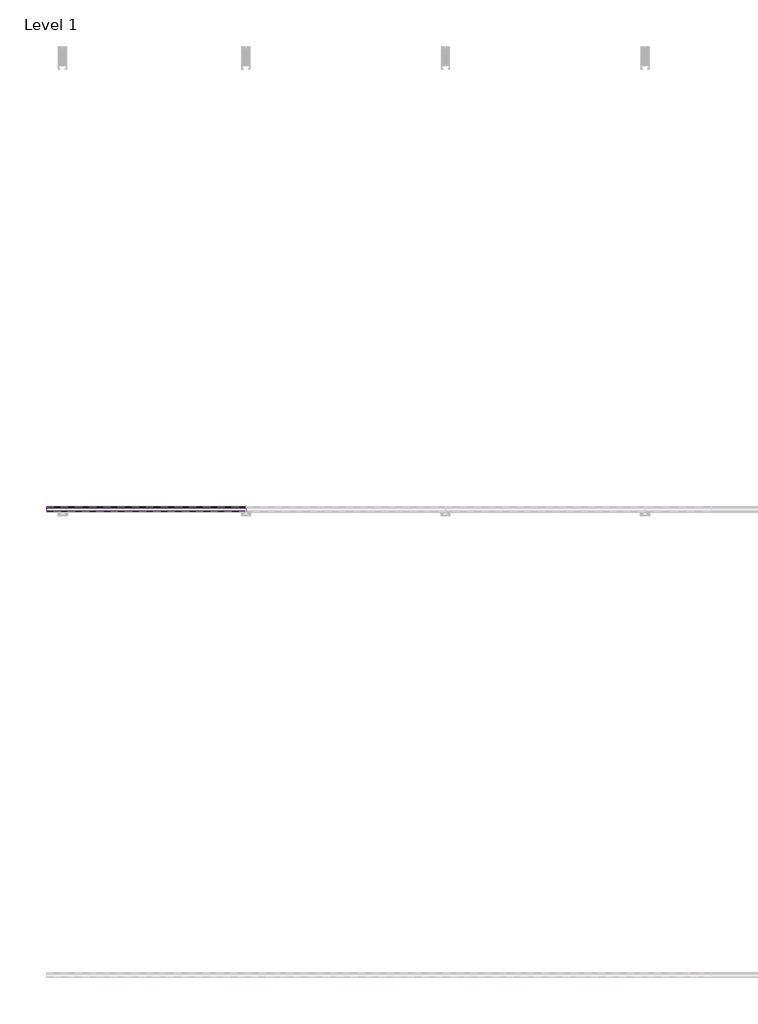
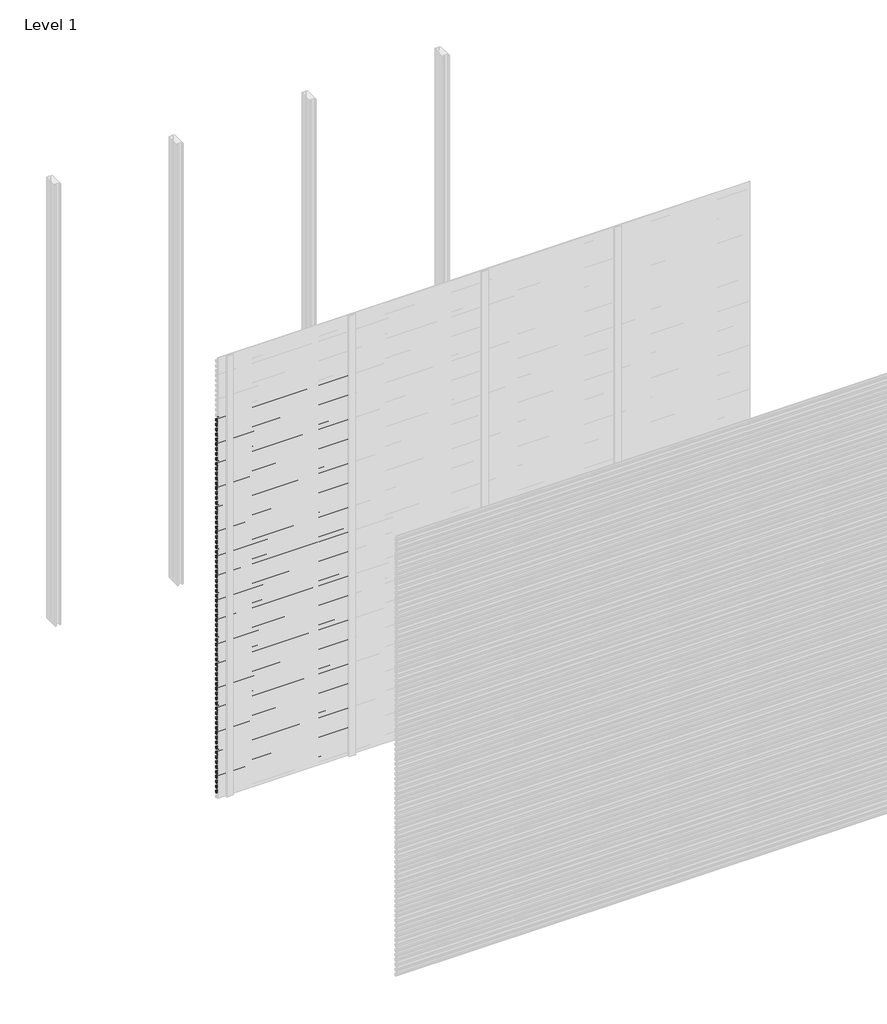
# One storey, part 52 of 96: 77 proxies.
"""IFC4 building model written with IfcOpenShell, lengths in millimetres."""

from ifc_helpers import new_model, si_unit, frame, origin, place, context, project, spatial, polyline, outline, extrude, element, save

model = new_model("IFC4")

# Units and contexts
model_context = context("Model", 3, world=origin())
ifc_project = project(units=[si_unit("LENGTHUNIT", "METRE", prefix="MILLI")], contexts=[model_context])

# Site, building, storey
site = spatial("IfcSite", under=ifc_project)
building = spatial("IfcBuilding", under=site)
storey = spatial("IfcBuildingStorey", under=building, Name="Level 1", Elevation=0.0)

# Proxies
placement = place(None, origin())
element("IfcBuildingElementProxy", 1, Name="Wall Sweeps", at=placement, inside=storey, context=model_context, shape_type="SweptSolid", body=[
    extrude(outline(polyline([(-23977.6, 2572.1655033), (-23977.6, 2557.8779188), (-23982.4114965, 2555.1), (-23982.4114965, 2556.3701706), (-23978.85, 2558.4264016), (-23978.85, 2571.4437382), (-23998.0, 2582.5000799), (-23998.0, 2597.4), (-23996.75, 2597.4), (-23996.75, 2583.2217609), (-23977.6, 2572.1655033)])), frame((0.0, 0.0, 0.0), z_axis=(1.0, 0.0, 0.0), x_axis=(0.0, 1.0, 0.0)), (0.0, 0.0, 1.0), 857.1428571),
])
element("IfcBuildingElementProxy", 2, Name="Wall Sweeps", at=placement, inside=storey, context=model_context, shape_type="SweptSolid", body=[
    extrude(outline(polyline([(-23977.6, 2538.8655033), (-23977.6, 2524.5779188), (-23982.4114965, 2521.8), (-23982.4114965, 2523.0701706), (-23978.85, 2525.1264016), (-23978.85, 2538.1437382), (-23998.0, 2549.2000799), (-23998.0, 2564.1), (-23996.75, 2564.1), (-23996.75, 2549.9217609), (-23977.6, 2538.8655033)])), frame((0.0, 0.0, 0.0), z_axis=(1.0, 0.0, 0.0), x_axis=(0.0, 1.0, 0.0)), (0.0, 0.0, 1.0), 857.1428571),
])
element("IfcBuildingElementProxy", 3, Name="Wall Sweeps", at=placement, inside=storey, context=model_context, shape_type="SweptSolid", body=[
    extrude(outline(polyline([(-23977.6, 2505.5655033), (-23977.6, 2491.2779188), (-23982.4114965, 2488.5), (-23982.4114965, 2489.7701706), (-23978.85, 2491.8264016), (-23978.85, 2504.8437382), (-23998.0, 2515.9000799), (-23998.0, 2530.8), (-23996.75, 2530.8), (-23996.75, 2516.6217609), (-23977.6, 2505.5655033)])), frame((0.0, 0.0, 0.0), z_axis=(1.0, 0.0, 0.0), x_axis=(0.0, 1.0, 0.0)), (0.0, 0.0, 1.0), 857.1428571),
])
element("IfcBuildingElementProxy", 4, Name="Wall Sweeps", at=placement, inside=storey, context=model_context, shape_type="SweptSolid", body=[
    extrude(outline(polyline([(-23977.6, 2472.2655033), (-23977.6, 2457.9779188), (-23982.4114965, 2455.2), (-23982.4114965, 2456.4701706), (-23978.85, 2458.5264016), (-23978.85, 2471.5437382), (-23998.0, 2482.6000799), (-23998.0, 2497.5), (-23996.75, 2497.5), (-23996.75, 2483.3217609), (-23977.6, 2472.2655033)])), frame((0.0, 0.0, 0.0), z_axis=(1.0, 0.0, 0.0), x_axis=(0.0, 1.0, 0.0)), (0.0, 0.0, 1.0), 857.1428571),
])
element("IfcBuildingElementProxy", 5, Name="Wall Sweeps", at=placement, inside=storey, context=model_context, shape_type="SweptSolid", body=[
    extrude(outline(polyline([(-23977.6, 2438.9655033), (-23977.6, 2424.6779188), (-23982.4114965, 2421.9), (-23982.4114965, 2423.1701706), (-23978.85, 2425.2264016), (-23978.85, 2438.2437382), (-23998.0, 2449.3000799), (-23998.0, 2464.2), (-23996.75, 2464.2), (-23996.75, 2450.0217609), (-23977.6, 2438.9655033)])), frame((0.0, 0.0, 0.0), z_axis=(1.0, 0.0, 0.0), x_axis=(0.0, 1.0, 0.0)), (0.0, 0.0, 1.0), 857.1428571),
])
element("IfcBuildingElementProxy", 6, Name="Wall Sweeps", at=placement, inside=storey, context=model_context, shape_type="SweptSolid", body=[
    extrude(outline(polyline([(-23977.6, 2405.6655033), (-23977.6, 2391.3779188), (-23982.4114965, 2388.6), (-23982.4114965, 2389.8701706), (-23978.85, 2391.9264016), (-23978.85, 2404.9437382), (-23998.0, 2416.0000799), (-23998.0, 2430.9), (-23996.75, 2430.9), (-23996.75, 2416.7217609), (-23977.6, 2405.6655033)])), frame((0.0, 0.0, 0.0), z_axis=(1.0, 0.0, 0.0), x_axis=(0.0, 1.0, 0.0)), (0.0, 0.0, 1.0), 857.1428571),
])
element("IfcBuildingElementProxy", 7, Name="Wall Sweeps", at=placement, inside=storey, context=model_context, shape_type="SweptSolid", body=[
    extrude(outline(polyline([(-23977.6, 2372.3655033), (-23977.6, 2358.0779188), (-23982.4114965, 2355.3), (-23982.4114965, 2356.5701706), (-23978.85, 2358.6264016), (-23978.85, 2371.6437382), (-23998.0, 2382.7000799), (-23998.0, 2397.6), (-23996.75, 2397.6), (-23996.75, 2383.4217609), (-23977.6, 2372.3655033)])), frame((0.0, 0.0, 0.0), z_axis=(1.0, 0.0, 0.0), x_axis=(0.0, 1.0, 0.0)), (0.0, 0.0, 1.0), 857.1428571),
])
element("IfcBuildingElementProxy", 8, Name="Wall Sweeps", at=placement, inside=storey, context=model_context, shape_type="SweptSolid", body=[
    extrude(outline(polyline([(-23977.6, 2339.0655033), (-23977.6, 2324.7779188), (-23982.4114965, 2322.0), (-23982.4114965, 2323.2701706), (-23978.85, 2325.3264016), (-23978.85, 2338.3437382), (-23998.0, 2349.4000799), (-23998.0, 2364.3), (-23996.75, 2364.3), (-23996.75, 2350.1217609), (-23977.6, 2339.0655033)])), frame((0.0, 0.0, 0.0), z_axis=(1.0, 0.0, 0.0), x_axis=(0.0, 1.0, 0.0)), (0.0, 0.0, 1.0), 857.1428571),
])
element("IfcBuildingElementProxy", 9, Name="Wall Sweeps", at=placement, inside=storey, context=model_context, shape_type="SweptSolid", body=[
    extrude(outline(polyline([(-23977.6, 2305.7655033), (-23977.6, 2291.4779188), (-23982.4114965, 2288.7), (-23982.4114965, 2289.9701706), (-23978.85, 2292.0264016), (-23978.85, 2305.0437382), (-23998.0, 2316.1000799), (-23998.0, 2331.0), (-23996.75, 2331.0), (-23996.75, 2316.8217609), (-23977.6, 2305.7655033)])), frame((0.0, 0.0, 0.0), z_axis=(1.0, 0.0, 0.0), x_axis=(0.0, 1.0, 0.0)), (0.0, 0.0, 1.0), 857.1428571),
])
element("IfcBuildingElementProxy", 10, Name="Wall Sweeps", at=placement, inside=storey, context=model_context, shape_type="SweptSolid", body=[
    extrude(outline(polyline([(-23977.6, 2272.4655033), (-23977.6, 2258.1779188), (-23982.4114965, 2255.4), (-23982.4114965, 2256.6701706), (-23978.85, 2258.7264016), (-23978.85, 2271.7437382), (-23998.0, 2282.8000799), (-23998.0, 2297.7), (-23996.75, 2297.7), (-23996.75, 2283.5217609), (-23977.6, 2272.4655033)])), frame((0.0, 0.0, 0.0), z_axis=(1.0, 0.0, 0.0), x_axis=(0.0, 1.0, 0.0)), (0.0, 0.0, 1.0), 857.1428571),
])
element("IfcBuildingElementProxy", 11, Name="Wall Sweeps", at=placement, inside=storey, context=model_context, shape_type="SweptSolid", body=[
    extrude(outline(polyline([(-23977.6, 2239.1655033), (-23977.6, 2224.8779188), (-23982.4114965, 2222.1), (-23982.4114965, 2223.3701706), (-23978.85, 2225.4264016), (-23978.85, 2238.4437382), (-23998.0, 2249.5000799), (-23998.0, 2264.4), (-23996.75, 2264.4), (-23996.75, 2250.2217609), (-23977.6, 2239.1655033)])), frame((0.0, 0.0, 0.0), z_axis=(1.0, 0.0, 0.0), x_axis=(0.0, 1.0, 0.0)), (0.0, 0.0, 1.0), 857.1428571),
])
element("IfcBuildingElementProxy", 12, Name="Wall Sweeps", at=placement, inside=storey, context=model_context, shape_type="SweptSolid", body=[
    extrude(outline(polyline([(-23977.6, 2205.8655033), (-23977.6, 2191.5779188), (-23982.4114965, 2188.8), (-23982.4114965, 2190.0701706), (-23978.85, 2192.1264016), (-23978.85, 2205.1437382), (-23998.0, 2216.2000799), (-23998.0, 2231.1), (-23996.75, 2231.1), (-23996.75, 2216.9217609), (-23977.6, 2205.8655033)])), frame((0.0, 0.0, 0.0), z_axis=(1.0, 0.0, 0.0), x_axis=(0.0, 1.0, 0.0)), (0.0, 0.0, 1.0), 857.1428571),
])
element("IfcBuildingElementProxy", 13, Name="Wall Sweeps", at=placement, inside=storey, context=model_context, shape_type="SweptSolid", body=[
    extrude(outline(polyline([(-23977.6, 2172.5655033), (-23977.6, 2158.2779188), (-23982.4114965, 2155.5), (-23982.4114965, 2156.7701706), (-23978.85, 2158.8264016), (-23978.85, 2171.8437382), (-23998.0, 2182.9000799), (-23998.0, 2197.8), (-23996.75, 2197.8), (-23996.75, 2183.6217609), (-23977.6, 2172.5655033)])), frame((0.0, 0.0, 0.0), z_axis=(1.0, 0.0, 0.0), x_axis=(0.0, 1.0, 0.0)), (0.0, 0.0, 1.0), 857.1428571),
])
element("IfcBuildingElementProxy", 14, Name="Wall Sweeps", at=placement, inside=storey, context=model_context, shape_type="SweptSolid", body=[
    extrude(outline(polyline([(-23977.6, 2139.2655033), (-23977.6, 2124.9779188), (-23982.4114965, 2122.2), (-23982.4114965, 2123.4701706), (-23978.85, 2125.5264016), (-23978.85, 2138.5437382), (-23998.0, 2149.6000799), (-23998.0, 2164.5), (-23996.75, 2164.5), (-23996.75, 2150.3217609), (-23977.6, 2139.2655033)])), frame((0.0, 0.0, 0.0), z_axis=(1.0, 0.0, 0.0), x_axis=(0.0, 1.0, 0.0)), (0.0, 0.0, 1.0), 857.1428571),
])
element("IfcBuildingElementProxy", 15, Name="Wall Sweeps", at=placement, inside=storey, context=model_context, shape_type="SweptSolid", body=[
    extrude(outline(polyline([(-23977.6, 2105.9655033), (-23977.6, 2091.6779188), (-23982.4114965, 2088.9), (-23982.4114965, 2090.1701706), (-23978.85, 2092.2264016), (-23978.85, 2105.2437382), (-23998.0, 2116.3000799), (-23998.0, 2131.2), (-23996.75, 2131.2), (-23996.75, 2117.0217609), (-23977.6, 2105.9655033)])), frame((0.0, 0.0, 0.0), z_axis=(1.0, 0.0, 0.0), x_axis=(0.0, 1.0, 0.0)), (0.0, 0.0, 1.0), 857.1428571),
])
element("IfcBuildingElementProxy", 16, Name="Wall Sweeps", at=placement, inside=storey, context=model_context, shape_type="SweptSolid", body=[
    extrude(outline(polyline([(-23977.6, 2072.6655033), (-23977.6, 2058.3779188), (-23982.4114965, 2055.6), (-23982.4114965, 2056.8701706), (-23978.85, 2058.9264016), (-23978.85, 2071.9437382), (-23998.0, 2083.0000799), (-23998.0, 2097.9), (-23996.75, 2097.9), (-23996.75, 2083.7217609), (-23977.6, 2072.6655033)])), frame((0.0, 0.0, 0.0), z_axis=(1.0, 0.0, 0.0), x_axis=(0.0, 1.0, 0.0)), (0.0, 0.0, 1.0), 857.1428571),
])
element("IfcBuildingElementProxy", 17, Name="Wall Sweeps", at=placement, inside=storey, context=model_context, shape_type="SweptSolid", body=[
    extrude(outline(polyline([(-23977.6, 2039.3655033), (-23977.6, 2025.0779188), (-23982.4114965, 2022.3), (-23982.4114965, 2023.5701706), (-23978.85, 2025.6264016), (-23978.85, 2038.6437382), (-23998.0, 2049.7000799), (-23998.0, 2064.6), (-23996.75, 2064.6), (-23996.75, 2050.4217609), (-23977.6, 2039.3655033)])), frame((0.0, 0.0, 0.0), z_axis=(1.0, 0.0, 0.0), x_axis=(0.0, 1.0, 0.0)), (0.0, 0.0, 1.0), 857.1428571),
])
element("IfcBuildingElementProxy", 18, Name="Wall Sweeps", at=placement, inside=storey, context=model_context, shape_type="SweptSolid", body=[
    extrude(outline(polyline([(-23977.6, 2006.0655033), (-23977.6, 1991.7779188), (-23982.4114965, 1989.0), (-23982.4114965, 1990.2701706), (-23978.85, 1992.3264016), (-23978.85, 2005.3437382), (-23998.0, 2016.4000799), (-23998.0, 2031.3), (-23996.75, 2031.3), (-23996.75, 2017.1217609), (-23977.6, 2006.0655033)])), frame((0.0, 0.0, 0.0), z_axis=(1.0, 0.0, 0.0), x_axis=(0.0, 1.0, 0.0)), (0.0, 0.0, 1.0), 857.1428571),
])
element("IfcBuildingElementProxy", 19, Name="Wall Sweeps", at=placement, inside=storey, context=model_context, shape_type="SweptSolid", body=[
    extrude(outline(polyline([(-23977.6, 1972.7655033), (-23977.6, 1958.4779188), (-23982.4114965, 1955.7), (-23982.4114965, 1956.9701706), (-23978.85, 1959.0264016), (-23978.85, 1972.0437382), (-23998.0, 1983.1000799), (-23998.0, 1998.0), (-23996.75, 1998.0), (-23996.75, 1983.8217609), (-23977.6, 1972.7655033)])), frame((0.0, 0.0, 0.0), z_axis=(1.0, 0.0, 0.0), x_axis=(0.0, 1.0, 0.0)), (0.0, 0.0, 1.0), 857.1428571),
])
element("IfcBuildingElementProxy", 20, Name="Wall Sweeps", at=placement, inside=storey, context=model_context, shape_type="SweptSolid", body=[
    extrude(outline(polyline([(-23977.6, 1939.4655033), (-23977.6, 1925.1779188), (-23982.4114965, 1922.4), (-23982.4114965, 1923.6701706), (-23978.85, 1925.7264016), (-23978.85, 1938.7437382), (-23998.0, 1949.8000799), (-23998.0, 1964.7), (-23996.75, 1964.7), (-23996.75, 1950.5217609), (-23977.6, 1939.4655033)])), frame((0.0, 0.0, 0.0), z_axis=(1.0, 0.0, 0.0), x_axis=(0.0, 1.0, 0.0)), (0.0, 0.0, 1.0), 857.1428571),
])
element("IfcBuildingElementProxy", 21, Name="Wall Sweeps", at=placement, inside=storey, context=model_context, shape_type="SweptSolid", body=[
    extrude(outline(polyline([(-23977.6, 1906.1655033), (-23977.6, 1891.8779188), (-23982.4114965, 1889.1), (-23982.4114965, 1890.3701706), (-23978.85, 1892.4264016), (-23978.85, 1905.4437382), (-23998.0, 1916.5000799), (-23998.0, 1931.4), (-23996.75, 1931.4), (-23996.75, 1917.2217609), (-23977.6, 1906.1655033)])), frame((0.0, 0.0, 0.0), z_axis=(1.0, 0.0, 0.0), x_axis=(0.0, 1.0, 0.0)), (0.0, 0.0, 1.0), 857.1428571),
])
element("IfcBuildingElementProxy", 22, Name="Wall Sweeps", at=placement, inside=storey, context=model_context, shape_type="SweptSolid", body=[
    extrude(outline(polyline([(-23977.6, 1872.8655033), (-23977.6, 1858.5779188), (-23982.4114965, 1855.8), (-23982.4114965, 1857.0701706), (-23978.85, 1859.1264016), (-23978.85, 1872.1437382), (-23998.0, 1883.2000799), (-23998.0, 1898.1), (-23996.75, 1898.1), (-23996.75, 1883.9217609), (-23977.6, 1872.8655033)])), frame((0.0, 0.0, 0.0), z_axis=(1.0, 0.0, 0.0), x_axis=(0.0, 1.0, 0.0)), (0.0, 0.0, 1.0), 857.1428571),
])
element("IfcBuildingElementProxy", 23, Name="Wall Sweeps", at=placement, inside=storey, context=model_context, shape_type="SweptSolid", body=[
    extrude(outline(polyline([(-23977.6, 1839.5655033), (-23977.6, 1825.2779188), (-23982.4114965, 1822.5), (-23982.4114965, 1823.7701706), (-23978.85, 1825.8264016), (-23978.85, 1838.8437382), (-23998.0, 1849.9000799), (-23998.0, 1864.8), (-23996.75, 1864.8), (-23996.75, 1850.6217609), (-23977.6, 1839.5655033)])), frame((0.0, 0.0, 0.0), z_axis=(1.0, 0.0, 0.0), x_axis=(0.0, 1.0, 0.0)), (0.0, 0.0, 1.0), 857.1428571),
])
element("IfcBuildingElementProxy", 24, Name="Wall Sweeps", at=placement, inside=storey, context=model_context, shape_type="SweptSolid", body=[
    extrude(outline(polyline([(-23977.6, 1806.2655033), (-23977.6, 1791.9779188), (-23982.4114965, 1789.2), (-23982.4114965, 1790.4701706), (-23978.85, 1792.5264016), (-23978.85, 1805.5437382), (-23998.0, 1816.6000799), (-23998.0, 1831.5), (-23996.75, 1831.5), (-23996.75, 1817.3217609), (-23977.6, 1806.2655033)])), frame((0.0, 0.0, 0.0), z_axis=(1.0, 0.0, 0.0), x_axis=(0.0, 1.0, 0.0)), (0.0, 0.0, 1.0), 857.1428571),
])
element("IfcBuildingElementProxy", 25, Name="Wall Sweeps", at=placement, inside=storey, context=model_context, shape_type="SweptSolid", body=[
    extrude(outline(polyline([(-23977.6, 1772.9655033), (-23977.6, 1758.6779188), (-23982.4114965, 1755.9), (-23982.4114965, 1757.1701706), (-23978.85, 1759.2264016), (-23978.85, 1772.2437382), (-23998.0, 1783.3000799), (-23998.0, 1798.2), (-23996.75, 1798.2), (-23996.75, 1784.0217609), (-23977.6, 1772.9655033)])), frame((0.0, 0.0, 0.0), z_axis=(1.0, 0.0, 0.0), x_axis=(0.0, 1.0, 0.0)), (0.0, 0.0, 1.0), 857.1428571),
])
element("IfcBuildingElementProxy", 26, Name="Wall Sweeps", at=placement, inside=storey, context=model_context, shape_type="SweptSolid", body=[
    extrude(outline(polyline([(-23977.6, 1739.6655033), (-23977.6, 1725.3779188), (-23982.4114965, 1722.6), (-23982.4114965, 1723.8701706), (-23978.85, 1725.9264016), (-23978.85, 1738.9437382), (-23998.0, 1750.0000799), (-23998.0, 1764.9), (-23996.75, 1764.9), (-23996.75, 1750.7217609), (-23977.6, 1739.6655033)])), frame((0.0, 0.0, 0.0), z_axis=(1.0, 0.0, 0.0), x_axis=(0.0, 1.0, 0.0)), (0.0, 0.0, 1.0), 857.1428571),
])
element("IfcBuildingElementProxy", 27, Name="Wall Sweeps", at=placement, inside=storey, context=model_context, shape_type="SweptSolid", body=[
    extrude(outline(polyline([(-23977.6, 1706.3655033), (-23977.6, 1692.0779188), (-23982.4114965, 1689.3), (-23982.4114965, 1690.5701706), (-23978.85, 1692.6264016), (-23978.85, 1705.6437382), (-23998.0, 1716.7000799), (-23998.0, 1731.6), (-23996.75, 1731.6), (-23996.75, 1717.4217609), (-23977.6, 1706.3655033)])), frame((0.0, 0.0, 0.0), z_axis=(1.0, 0.0, 0.0), x_axis=(0.0, 1.0, 0.0)), (0.0, 0.0, 1.0), 857.1428571),
])
element("IfcBuildingElementProxy", 28, Name="Wall Sweeps", at=placement, inside=storey, context=model_context, shape_type="SweptSolid", body=[
    extrude(outline(polyline([(-23977.6, 1673.0655033), (-23977.6, 1658.7779188), (-23982.4114965, 1656.0), (-23982.4114965, 1657.2701706), (-23978.85, 1659.3264016), (-23978.85, 1672.3437382), (-23998.0, 1683.4000799), (-23998.0, 1698.3), (-23996.75, 1698.3), (-23996.75, 1684.1217609), (-23977.6, 1673.0655033)])), frame((0.0, 0.0, 0.0), z_axis=(1.0, 0.0, 0.0), x_axis=(0.0, 1.0, 0.0)), (0.0, 0.0, 1.0), 857.1428571),
])
element("IfcBuildingElementProxy", 29, Name="Wall Sweeps", at=placement, inside=storey, context=model_context, shape_type="SweptSolid", body=[
    extrude(outline(polyline([(-23977.6, 1639.7655033), (-23977.6, 1625.4779188), (-23982.4114965, 1622.7), (-23982.4114965, 1623.9701706), (-23978.85, 1626.0264016), (-23978.85, 1639.0437382), (-23998.0, 1650.1000799), (-23998.0, 1665.0), (-23996.75, 1665.0), (-23996.75, 1650.8217609), (-23977.6, 1639.7655033)])), frame((0.0, 0.0, 0.0), z_axis=(1.0, 0.0, 0.0), x_axis=(0.0, 1.0, 0.0)), (0.0, 0.0, 1.0), 857.1428571),
])
element("IfcBuildingElementProxy", 30, Name="Wall Sweeps", at=placement, inside=storey, context=model_context, shape_type="SweptSolid", body=[
    extrude(outline(polyline([(-23977.6, 1606.4655033), (-23977.6, 1592.1779188), (-23982.4114965, 1589.4), (-23982.4114965, 1590.6701706), (-23978.85, 1592.7264016), (-23978.85, 1605.7437382), (-23998.0, 1616.8000799), (-23998.0, 1631.7), (-23996.75, 1631.7), (-23996.75, 1617.5217609), (-23977.6, 1606.4655033)])), frame((0.0, 0.0, 0.0), z_axis=(1.0, 0.0, 0.0), x_axis=(0.0, 1.0, 0.0)), (0.0, 0.0, 1.0), 857.1428571),
])
element("IfcBuildingElementProxy", 31, Name="Wall Sweeps", at=placement, inside=storey, context=model_context, shape_type="SweptSolid", body=[
    extrude(outline(polyline([(-23977.6, 1573.1655033), (-23977.6, 1558.8779188), (-23982.4114965, 1556.1), (-23982.4114965, 1557.3701706), (-23978.85, 1559.4264016), (-23978.85, 1572.4437382), (-23998.0, 1583.5000799), (-23998.0, 1598.4), (-23996.75, 1598.4), (-23996.75, 1584.2217609), (-23977.6, 1573.1655033)])), frame((0.0, 0.0, 0.0), z_axis=(1.0, 0.0, 0.0), x_axis=(0.0, 1.0, 0.0)), (0.0, 0.0, 1.0), 857.1428571),
])
element("IfcBuildingElementProxy", 32, Name="Wall Sweeps", at=placement, inside=storey, context=model_context, shape_type="SweptSolid", body=[
    extrude(outline(polyline([(-23977.6, 1539.8655033), (-23977.6, 1525.5779188), (-23982.4114965, 1522.8), (-23982.4114965, 1524.0701706), (-23978.85, 1526.1264016), (-23978.85, 1539.1437382), (-23998.0, 1550.2000799), (-23998.0, 1565.1), (-23996.75, 1565.1), (-23996.75, 1550.9217609), (-23977.6, 1539.8655033)])), frame((0.0, 0.0, 0.0), z_axis=(1.0, 0.0, 0.0), x_axis=(0.0, 1.0, 0.0)), (0.0, 0.0, 1.0), 857.1428571),
])
element("IfcBuildingElementProxy", 33, Name="Wall Sweeps", at=placement, inside=storey, context=model_context, shape_type="SweptSolid", body=[
    extrude(outline(polyline([(-23977.6, 1506.5655033), (-23977.6, 1492.2779188), (-23982.4114965, 1489.5), (-23982.4114965, 1490.7701706), (-23978.85, 1492.8264016), (-23978.85, 1505.8437382), (-23998.0, 1516.9000799), (-23998.0, 1531.8), (-23996.75, 1531.8), (-23996.75, 1517.6217609), (-23977.6, 1506.5655033)])), frame((0.0, 0.0, 0.0), z_axis=(1.0, 0.0, 0.0), x_axis=(0.0, 1.0, 0.0)), (0.0, 0.0, 1.0), 857.1428571),
])
element("IfcBuildingElementProxy", 34, Name="Wall Sweeps", at=placement, inside=storey, context=model_context, shape_type="SweptSolid", body=[
    extrude(outline(polyline([(-23977.6, 1473.2655033), (-23977.6, 1458.9779188), (-23982.4114965, 1456.2), (-23982.4114965, 1457.4701706), (-23978.85, 1459.5264016), (-23978.85, 1472.5437382), (-23998.0, 1483.6000799), (-23998.0, 1498.5), (-23996.75, 1498.5), (-23996.75, 1484.3217609), (-23977.6, 1473.2655033)])), frame((0.0, 0.0, 0.0), z_axis=(1.0, 0.0, 0.0), x_axis=(0.0, 1.0, 0.0)), (0.0, 0.0, 1.0), 857.1428571),
])
element("IfcBuildingElementProxy", 35, Name="Wall Sweeps", at=placement, inside=storey, context=model_context, shape_type="SweptSolid", body=[
    extrude(outline(polyline([(-23977.6, 1439.9655033), (-23977.6, 1425.6779188), (-23982.4114965, 1422.9), (-23982.4114965, 1424.1701706), (-23978.85, 1426.2264016), (-23978.85, 1439.2437382), (-23998.0, 1450.3000799), (-23998.0, 1465.2), (-23996.75, 1465.2), (-23996.75, 1451.0217609), (-23977.6, 1439.9655033)])), frame((0.0, 0.0, 0.0), z_axis=(1.0, 0.0, 0.0), x_axis=(0.0, 1.0, 0.0)), (0.0, 0.0, 1.0), 857.1428571),
])
element("IfcBuildingElementProxy", 36, Name="Wall Sweeps", at=placement, inside=storey, context=model_context, shape_type="SweptSolid", body=[
    extrude(outline(polyline([(-23977.6, 1406.6655033), (-23977.6, 1392.3779188), (-23982.4114965, 1389.6), (-23982.4114965, 1390.8701706), (-23978.85, 1392.9264016), (-23978.85, 1405.9437382), (-23998.0, 1417.0000799), (-23998.0, 1431.9), (-23996.75, 1431.9), (-23996.75, 1417.7217609), (-23977.6, 1406.6655033)])), frame((0.0, 0.0, 0.0), z_axis=(1.0, 0.0, 0.0), x_axis=(0.0, 1.0, 0.0)), (0.0, 0.0, 1.0), 857.1428571),
])
element("IfcBuildingElementProxy", 37, Name="Wall Sweeps", at=placement, inside=storey, context=model_context, shape_type="SweptSolid", body=[
    extrude(outline(polyline([(-23977.6, 1373.3655033), (-23977.6, 1359.0779188), (-23982.4114965, 1356.3), (-23982.4114965, 1357.5701706), (-23978.85, 1359.6264016), (-23978.85, 1372.6437382), (-23998.0, 1383.7000799), (-23998.0, 1398.6), (-23996.75, 1398.6), (-23996.75, 1384.4217609), (-23977.6, 1373.3655033)])), frame((0.0, 0.0, 0.0), z_axis=(1.0, 0.0, 0.0), x_axis=(0.0, 1.0, 0.0)), (0.0, 0.0, 1.0), 857.1428571),
])
element("IfcBuildingElementProxy", 38, Name="Wall Sweeps", at=placement, inside=storey, context=model_context, shape_type="SweptSolid", body=[
    extrude(outline(polyline([(-23977.6, 1340.0655033), (-23977.6, 1325.7779188), (-23982.4114965, 1323.0), (-23982.4114965, 1324.2701706), (-23978.85, 1326.3264016), (-23978.85, 1339.3437382), (-23998.0, 1350.4000799), (-23998.0, 1365.3), (-23996.75, 1365.3), (-23996.75, 1351.1217609), (-23977.6, 1340.0655033)])), frame((0.0, 0.0, 0.0), z_axis=(1.0, 0.0, 0.0), x_axis=(0.0, 1.0, 0.0)), (0.0, 0.0, 1.0), 857.1428571),
])
element("IfcBuildingElementProxy", 39, Name="Wall Sweeps", at=placement, inside=storey, context=model_context, shape_type="SweptSolid", body=[
    extrude(outline(polyline([(-23977.6, 1306.7655033), (-23977.6, 1292.4779188), (-23982.4114965, 1289.7), (-23982.4114965, 1290.9701706), (-23978.85, 1293.0264016), (-23978.85, 1306.0437382), (-23998.0, 1317.1000799), (-23998.0, 1332.0), (-23996.75, 1332.0), (-23996.75, 1317.8217609), (-23977.6, 1306.7655033)])), frame((0.0, 0.0, 0.0), z_axis=(1.0, 0.0, 0.0), x_axis=(0.0, 1.0, 0.0)), (0.0, 0.0, 1.0), 857.1428571),
])
element("IfcBuildingElementProxy", 40, Name="Wall Sweeps", at=placement, inside=storey, context=model_context, shape_type="SweptSolid", body=[
    extrude(outline(polyline([(-23977.6, 1273.4655033), (-23977.6, 1259.1779188), (-23982.4114965, 1256.4), (-23982.4114965, 1257.6701706), (-23978.85, 1259.7264016), (-23978.85, 1272.7437382), (-23998.0, 1283.8000799), (-23998.0, 1298.7), (-23996.75, 1298.7), (-23996.75, 1284.5217609), (-23977.6, 1273.4655033)])), frame((0.0, 0.0, 0.0), z_axis=(1.0, 0.0, 0.0), x_axis=(0.0, 1.0, 0.0)), (0.0, 0.0, 1.0), 857.1428571),
])
element("IfcBuildingElementProxy", 41, Name="Wall Sweeps", at=placement, inside=storey, context=model_context, shape_type="SweptSolid", body=[
    extrude(outline(polyline([(-23977.6, 1240.1655033), (-23977.6, 1225.8779188), (-23982.4114965, 1223.1), (-23982.4114965, 1224.3701706), (-23978.85, 1226.4264016), (-23978.85, 1239.4437382), (-23998.0, 1250.5000799), (-23998.0, 1265.4), (-23996.75, 1265.4), (-23996.75, 1251.2217609), (-23977.6, 1240.1655033)])), frame((0.0, 0.0, 0.0), z_axis=(1.0, 0.0, 0.0), x_axis=(0.0, 1.0, 0.0)), (0.0, 0.0, 1.0), 857.1428571),
])
element("IfcBuildingElementProxy", 42, Name="Wall Sweeps", at=placement, inside=storey, context=model_context, shape_type="SweptSolid", body=[
    extrude(outline(polyline([(-23977.6, 1206.8655033), (-23977.6, 1192.5779188), (-23982.4114965, 1189.8), (-23982.4114965, 1191.0701706), (-23978.85, 1193.1264016), (-23978.85, 1206.1437382), (-23998.0, 1217.2000799), (-23998.0, 1232.1), (-23996.75, 1232.1), (-23996.75, 1217.9217609), (-23977.6, 1206.8655033)])), frame((0.0, 0.0, 0.0), z_axis=(1.0, 0.0, 0.0), x_axis=(0.0, 1.0, 0.0)), (0.0, 0.0, 1.0), 857.1428571),
])
element("IfcBuildingElementProxy", 43, Name="Wall Sweeps", at=placement, inside=storey, context=model_context, shape_type="SweptSolid", body=[
    extrude(outline(polyline([(-23977.6, 1173.5655033), (-23977.6, 1159.2779188), (-23982.4114965, 1156.5), (-23982.4114965, 1157.7701706), (-23978.85, 1159.8264016), (-23978.85, 1172.8437382), (-23998.0, 1183.9000799), (-23998.0, 1198.8), (-23996.75, 1198.8), (-23996.75, 1184.6217609), (-23977.6, 1173.5655033)])), frame((0.0, 0.0, 0.0), z_axis=(1.0, 0.0, 0.0), x_axis=(0.0, 1.0, 0.0)), (0.0, 0.0, 1.0), 857.1428571),
])
element("IfcBuildingElementProxy", 44, Name="Wall Sweeps", at=placement, inside=storey, context=model_context, shape_type="SweptSolid", body=[
    extrude(outline(polyline([(-23977.6, 1140.2655033), (-23977.6, 1125.9779188), (-23982.4114965, 1123.2), (-23982.4114965, 1124.4701706), (-23978.85, 1126.5264016), (-23978.85, 1139.5437382), (-23998.0, 1150.6000799), (-23998.0, 1165.5), (-23996.75, 1165.5), (-23996.75, 1151.3217609), (-23977.6, 1140.2655033)])), frame((0.0, 0.0, 0.0), z_axis=(1.0, 0.0, 0.0), x_axis=(0.0, 1.0, 0.0)), (0.0, 0.0, 1.0), 857.1428571),
])
element("IfcBuildingElementProxy", 45, Name="Wall Sweeps", at=placement, inside=storey, context=model_context, shape_type="SweptSolid", body=[
    extrude(outline(polyline([(-23977.6, 1106.9655033), (-23977.6, 1092.6779188), (-23982.4114965, 1089.9), (-23982.4114965, 1091.1701706), (-23978.85, 1093.2264016), (-23978.85, 1106.2437382), (-23998.0, 1117.3000799), (-23998.0, 1132.2), (-23996.75, 1132.2), (-23996.75, 1118.0217609), (-23977.6, 1106.9655033)])), frame((0.0, 0.0, 0.0), z_axis=(1.0, 0.0, 0.0), x_axis=(0.0, 1.0, 0.0)), (0.0, 0.0, 1.0), 857.1428571),
])
element("IfcBuildingElementProxy", 46, Name="Wall Sweeps", at=placement, inside=storey, context=model_context, shape_type="SweptSolid", body=[
    extrude(outline(polyline([(-23977.6, 1073.6655033), (-23977.6, 1059.3779188), (-23982.4114965, 1056.6), (-23982.4114965, 1057.8701706), (-23978.85, 1059.9264016), (-23978.85, 1072.9437382), (-23998.0, 1084.0000799), (-23998.0, 1098.9), (-23996.75, 1098.9), (-23996.75, 1084.7217609), (-23977.6, 1073.6655033)])), frame((0.0, 0.0, 0.0), z_axis=(1.0, 0.0, 0.0), x_axis=(0.0, 1.0, 0.0)), (0.0, 0.0, 1.0), 857.1428571),
])
element("IfcBuildingElementProxy", 47, Name="Wall Sweeps", at=placement, inside=storey, context=model_context, shape_type="SweptSolid", body=[
    extrude(outline(polyline([(-23977.6, 1040.3655033), (-23977.6, 1026.0779188), (-23982.4114965, 1023.3), (-23982.4114965, 1024.5701706), (-23978.85, 1026.6264016), (-23978.85, 1039.6437382), (-23998.0, 1050.7000799), (-23998.0, 1065.6), (-23996.75, 1065.6), (-23996.75, 1051.4217609), (-23977.6, 1040.3655033)])), frame((0.0, 0.0, 0.0), z_axis=(1.0, 0.0, 0.0), x_axis=(0.0, 1.0, 0.0)), (0.0, 0.0, 1.0), 857.1428571),
])
element("IfcBuildingElementProxy", 48, Name="Wall Sweeps", at=placement, inside=storey, context=model_context, shape_type="SweptSolid", body=[
    extrude(outline(polyline([(-23977.6, 1007.0655033), (-23977.6, 992.7779188), (-23982.4114965, 990.0), (-23982.4114965, 991.2701706), (-23978.85, 993.3264016), (-23978.85, 1006.3437382), (-23998.0, 1017.4000799), (-23998.0, 1032.3), (-23996.75, 1032.3), (-23996.75, 1018.1217609), (-23977.6, 1007.0655033)])), frame((0.0, 0.0, 0.0), z_axis=(1.0, 0.0, 0.0), x_axis=(0.0, 1.0, 0.0)), (0.0, 0.0, 1.0), 857.1428571),
])
element("IfcBuildingElementProxy", 49, Name="Wall Sweeps", at=placement, inside=storey, context=model_context, shape_type="SweptSolid", body=[
    extrude(outline(polyline([(-23977.6, 973.7655033), (-23977.6, 959.4779188), (-23982.4114965, 956.7), (-23982.4114965, 957.9701706), (-23978.85, 960.0264016), (-23978.85, 973.0437382), (-23998.0, 984.1000799), (-23998.0, 999.0), (-23996.75, 999.0), (-23996.75, 984.8217609), (-23977.6, 973.7655033)])), frame((0.0, 0.0, 0.0), z_axis=(1.0, 0.0, 0.0), x_axis=(0.0, 1.0, 0.0)), (0.0, 0.0, 1.0), 857.1428571),
])
element("IfcBuildingElementProxy", 50, Name="Wall Sweeps", at=placement, inside=storey, context=model_context, shape_type="SweptSolid", body=[
    extrude(outline(polyline([(-23977.6, 940.4655033), (-23977.6, 926.1779188), (-23982.4114965, 923.4), (-23982.4114965, 924.6701706), (-23978.85, 926.7264016), (-23978.85, 939.7437382), (-23998.0, 950.8000799), (-23998.0, 965.7), (-23996.75, 965.7), (-23996.75, 951.5217609), (-23977.6, 940.4655033)])), frame((0.0, 0.0, 0.0), z_axis=(1.0, 0.0, 0.0), x_axis=(0.0, 1.0, 0.0)), (0.0, 0.0, 1.0), 857.1428571),
])
element("IfcBuildingElementProxy", 51, Name="Wall Sweeps", at=placement, inside=storey, context=model_context, shape_type="SweptSolid", body=[
    extrude(outline(polyline([(-23977.6, 907.1655033), (-23977.6, 892.8779188), (-23982.4114965, 890.1), (-23982.4114965, 891.3701706), (-23978.85, 893.4264016), (-23978.85, 906.4437382), (-23998.0, 917.5000799), (-23998.0, 932.4), (-23996.75, 932.4), (-23996.75, 918.2217609), (-23977.6, 907.1655033)])), frame((0.0, 0.0, 0.0), z_axis=(1.0, 0.0, 0.0), x_axis=(0.0, 1.0, 0.0)), (0.0, 0.0, 1.0), 857.1428571),
])
element("IfcBuildingElementProxy", 52, Name="Wall Sweeps", at=placement, inside=storey, context=model_context, shape_type="SweptSolid", body=[
    extrude(outline(polyline([(-23977.6, 873.8655033), (-23977.6, 859.5779188), (-23982.4114965, 856.8), (-23982.4114965, 858.0701706), (-23978.85, 860.1264016), (-23978.85, 873.1437382), (-23998.0, 884.2000799), (-23998.0, 899.1), (-23996.75, 899.1), (-23996.75, 884.9217609), (-23977.6, 873.8655033)])), frame((0.0, 0.0, 0.0), z_axis=(1.0, 0.0, 0.0), x_axis=(0.0, 1.0, 0.0)), (0.0, 0.0, 1.0), 857.1428571),
])
element("IfcBuildingElementProxy", 53, Name="Wall Sweeps", at=placement, inside=storey, context=model_context, shape_type="SweptSolid", body=[
    extrude(outline(polyline([(-23977.6, 840.5655033), (-23977.6, 826.2779188), (-23982.4114965, 823.5), (-23982.4114965, 824.7701706), (-23978.85, 826.8264016), (-23978.85, 839.8437382), (-23998.0, 850.9000799), (-23998.0, 865.8), (-23996.75, 865.8), (-23996.75, 851.6217609), (-23977.6, 840.5655033)])), frame((0.0, 0.0, 0.0), z_axis=(1.0, 0.0, 0.0), x_axis=(0.0, 1.0, 0.0)), (0.0, 0.0, 1.0), 857.1428571),
])
element("IfcBuildingElementProxy", 54, Name="Wall Sweeps", at=placement, inside=storey, context=model_context, shape_type="SweptSolid", body=[
    extrude(outline(polyline([(-23977.6, 807.2655033), (-23977.6, 792.9779188), (-23982.4114965, 790.2), (-23982.4114965, 791.4701706), (-23978.85, 793.5264016), (-23978.85, 806.5437382), (-23998.0, 817.6000799), (-23998.0, 832.5), (-23996.75, 832.5), (-23996.75, 818.3217609), (-23977.6, 807.2655033)])), frame((0.0, 0.0, 0.0), z_axis=(1.0, 0.0, 0.0), x_axis=(0.0, 1.0, 0.0)), (0.0, 0.0, 1.0), 857.1428571),
])
element("IfcBuildingElementProxy", 55, Name="Wall Sweeps", at=placement, inside=storey, context=model_context, shape_type="SweptSolid", body=[
    extrude(outline(polyline([(-23977.6, 773.9655033), (-23977.6, 759.6779188), (-23982.4114965, 756.9), (-23982.4114965, 758.1701706), (-23978.85, 760.2264016), (-23978.85, 773.2437382), (-23998.0, 784.3000799), (-23998.0, 799.2), (-23996.75, 799.2), (-23996.75, 785.0217609), (-23977.6, 773.9655033)])), frame((0.0, 0.0, 0.0), z_axis=(1.0, 0.0, 0.0), x_axis=(0.0, 1.0, 0.0)), (0.0, 0.0, 1.0), 857.1428571),
])
element("IfcBuildingElementProxy", 56, Name="Wall Sweeps", at=placement, inside=storey, context=model_context, shape_type="SweptSolid", body=[
    extrude(outline(polyline([(-23977.6, 740.6655033), (-23977.6, 726.3779188), (-23982.4114965, 723.6), (-23982.4114965, 724.8701706), (-23978.85, 726.9264016), (-23978.85, 739.9437382), (-23998.0, 751.0000799), (-23998.0, 765.9), (-23996.75, 765.9), (-23996.75, 751.7217609), (-23977.6, 740.6655033)])), frame((0.0, 0.0, 0.0), z_axis=(1.0, 0.0, 0.0), x_axis=(0.0, 1.0, 0.0)), (0.0, 0.0, 1.0), 857.1428571),
])
element("IfcBuildingElementProxy", 57, Name="Wall Sweeps", at=placement, inside=storey, context=model_context, shape_type="SweptSolid", body=[
    extrude(outline(polyline([(-23977.6, 707.3655033), (-23977.6, 693.0779188), (-23982.4114965, 690.3), (-23982.4114965, 691.5701706), (-23978.85, 693.6264016), (-23978.85, 706.6437382), (-23998.0, 717.7000799), (-23998.0, 732.6), (-23996.75, 732.6), (-23996.75, 718.4217609), (-23977.6, 707.3655033)])), frame((0.0, 0.0, 0.0), z_axis=(1.0, 0.0, 0.0), x_axis=(0.0, 1.0, 0.0)), (0.0, 0.0, 1.0), 857.1428571),
])
element("IfcBuildingElementProxy", 58, Name="Wall Sweeps", at=placement, inside=storey, context=model_context, shape_type="SweptSolid", body=[
    extrude(outline(polyline([(-23977.6, 674.0655033), (-23977.6, 659.7779188), (-23982.4114965, 657.0), (-23982.4114965, 658.2701706), (-23978.85, 660.3264016), (-23978.85, 673.3437382), (-23998.0, 684.4000799), (-23998.0, 699.3), (-23996.75, 699.3), (-23996.75, 685.1217609), (-23977.6, 674.0655033)])), frame((0.0, 0.0, 0.0), z_axis=(1.0, 0.0, 0.0), x_axis=(0.0, 1.0, 0.0)), (0.0, 0.0, 1.0), 857.1428571),
])
element("IfcBuildingElementProxy", 59, Name="Wall Sweeps", at=placement, inside=storey, context=model_context, shape_type="SweptSolid", body=[
    extrude(outline(polyline([(-23977.6, 640.7655033), (-23977.6, 626.4779188), (-23982.4114965, 623.7), (-23982.4114965, 624.9701706), (-23978.85, 627.0264016), (-23978.85, 640.0437382), (-23998.0, 651.1000799), (-23998.0, 666.0), (-23996.75, 666.0), (-23996.75, 651.8217609), (-23977.6, 640.7655033)])), frame((0.0, 0.0, 0.0), z_axis=(1.0, 0.0, 0.0), x_axis=(0.0, 1.0, 0.0)), (0.0, 0.0, 1.0), 857.1428571),
])
element("IfcBuildingElementProxy", 60, Name="Wall Sweeps", at=placement, inside=storey, context=model_context, shape_type="SweptSolid", body=[
    extrude(outline(polyline([(-23977.6, 607.4655033), (-23977.6, 593.1779188), (-23982.4114965, 590.4), (-23982.4114965, 591.6701706), (-23978.85, 593.7264016), (-23978.85, 606.7437382), (-23998.0, 617.8000799), (-23998.0, 632.7), (-23996.75, 632.7), (-23996.75, 618.5217609), (-23977.6, 607.4655033)])), frame((0.0, 0.0, 0.0), z_axis=(1.0, 0.0, 0.0), x_axis=(0.0, 1.0, 0.0)), (0.0, 0.0, 1.0), 857.1428571),
])
element("IfcBuildingElementProxy", 61, Name="Wall Sweeps", at=placement, inside=storey, context=model_context, shape_type="SweptSolid", body=[
    extrude(outline(polyline([(-23977.6, 574.1655033), (-23977.6, 559.8779188), (-23982.4114965, 557.1), (-23982.4114965, 558.3701706), (-23978.85, 560.4264016), (-23978.85, 573.4437382), (-23998.0, 584.5000799), (-23998.0, 599.4), (-23996.75, 599.4), (-23996.75, 585.2217609), (-23977.6, 574.1655033)])), frame((0.0, 0.0, 0.0), z_axis=(1.0, 0.0, 0.0), x_axis=(0.0, 1.0, 0.0)), (0.0, 0.0, 1.0), 857.1428571),
])
element("IfcBuildingElementProxy", 62, Name="Wall Sweeps", at=placement, inside=storey, context=model_context, shape_type="SweptSolid", body=[
    extrude(outline(polyline([(-23977.6, 540.8655033), (-23977.6, 526.5779188), (-23982.4114965, 523.8), (-23982.4114965, 525.0701706), (-23978.85, 527.1264016), (-23978.85, 540.1437382), (-23998.0, 551.2000799), (-23998.0, 566.1), (-23996.75, 566.1), (-23996.75, 551.9217609), (-23977.6, 540.8655033)])), frame((0.0, 0.0, 0.0), z_axis=(1.0, 0.0, 0.0), x_axis=(0.0, 1.0, 0.0)), (0.0, 0.0, 1.0), 857.1428571),
])
element("IfcBuildingElementProxy", 63, Name="Wall Sweeps", at=placement, inside=storey, context=model_context, shape_type="SweptSolid", body=[
    extrude(outline(polyline([(-23977.6, 507.5655033), (-23977.6, 493.2779188), (-23982.4114965, 490.5), (-23982.4114965, 491.7701706), (-23978.85, 493.8264016), (-23978.85, 506.8437382), (-23998.0, 517.9000799), (-23998.0, 532.8), (-23996.75, 532.8), (-23996.75, 518.6217609), (-23977.6, 507.5655033)])), frame((0.0, 0.0, 0.0), z_axis=(1.0, 0.0, 0.0), x_axis=(0.0, 1.0, 0.0)), (0.0, 0.0, 1.0), 857.1428571),
])
element("IfcBuildingElementProxy", 64, Name="Wall Sweeps", at=placement, inside=storey, context=model_context, shape_type="SweptSolid", body=[
    extrude(outline(polyline([(-23977.6, 474.2655033), (-23977.6, 459.9779188), (-23982.4114965, 457.2), (-23982.4114965, 458.4701706), (-23978.85, 460.5264016), (-23978.85, 473.5437382), (-23998.0, 484.6000799), (-23998.0, 499.5), (-23996.75, 499.5), (-23996.75, 485.3217609), (-23977.6, 474.2655033)])), frame((0.0, 0.0, 0.0), z_axis=(1.0, 0.0, 0.0), x_axis=(0.0, 1.0, 0.0)), (0.0, 0.0, 1.0), 857.1428571),
])
element("IfcBuildingElementProxy", 65, Name="Wall Sweeps", at=placement, inside=storey, context=model_context, shape_type="SweptSolid", body=[
    extrude(outline(polyline([(-23977.6, 440.9655033), (-23977.6, 426.6779188), (-23982.4114965, 423.9), (-23982.4114965, 425.1701706), (-23978.85, 427.2264016), (-23978.85, 440.2437382), (-23998.0, 451.3000799), (-23998.0, 466.2), (-23996.75, 466.2), (-23996.75, 452.0217609), (-23977.6, 440.9655033)])), frame((0.0, 0.0, 0.0), z_axis=(1.0, 0.0, 0.0), x_axis=(0.0, 1.0, 0.0)), (0.0, 0.0, 1.0), 857.1428571),
])
element("IfcBuildingElementProxy", 66, Name="Wall Sweeps", at=placement, inside=storey, context=model_context, shape_type="SweptSolid", body=[
    extrude(outline(polyline([(-23977.6, 407.6655033), (-23977.6, 393.3779188), (-23982.4114965, 390.6), (-23982.4114965, 391.8701706), (-23978.85, 393.9264016), (-23978.85, 406.9437382), (-23998.0, 418.0000799), (-23998.0, 432.9), (-23996.75, 432.9), (-23996.75, 418.7217609), (-23977.6, 407.6655033)])), frame((0.0, 0.0, 0.0), z_axis=(1.0, 0.0, 0.0), x_axis=(0.0, 1.0, 0.0)), (0.0, 0.0, 1.0), 857.1428571),
])
element("IfcBuildingElementProxy", 67, Name="Wall Sweeps", at=placement, inside=storey, context=model_context, shape_type="SweptSolid", body=[
    extrude(outline(polyline([(-23977.6, 374.3655033), (-23977.6, 360.0779188), (-23982.4114965, 357.3), (-23982.4114965, 358.5701706), (-23978.85, 360.6264016), (-23978.85, 373.6437382), (-23998.0, 384.7000799), (-23998.0, 399.6), (-23996.75, 399.6), (-23996.75, 385.4217609), (-23977.6, 374.3655033)])), frame((0.0, 0.0, 0.0), z_axis=(1.0, 0.0, 0.0), x_axis=(0.0, 1.0, 0.0)), (0.0, 0.0, 1.0), 857.1428571),
])
element("IfcBuildingElementProxy", 68, Name="Wall Sweeps", at=placement, inside=storey, context=model_context, shape_type="SweptSolid", body=[
    extrude(outline(polyline([(-23977.6, 341.0655033), (-23977.6, 326.7779188), (-23982.4114965, 324.0), (-23982.4114965, 325.2701706), (-23978.85, 327.3264016), (-23978.85, 340.3437382), (-23998.0, 351.4000799), (-23998.0, 366.3), (-23996.75, 366.3), (-23996.75, 352.1217609), (-23977.6, 341.0655033)])), frame((0.0, 0.0, 0.0), z_axis=(1.0, 0.0, 0.0), x_axis=(0.0, 1.0, 0.0)), (0.0, 0.0, 1.0), 857.1428571),
])
element("IfcBuildingElementProxy", 69, Name="Wall Sweeps", at=placement, inside=storey, context=model_context, shape_type="SweptSolid", body=[
    extrude(outline(polyline([(-23977.6, 307.7655033), (-23977.6, 293.4779188), (-23982.4114965, 290.7), (-23982.4114965, 291.9701706), (-23978.85, 294.0264016), (-23978.85, 307.0437382), (-23998.0, 318.1000799), (-23998.0, 333.0), (-23996.75, 333.0), (-23996.75, 318.8217609), (-23977.6, 307.7655033)])), frame((0.0, 0.0, 0.0), z_axis=(1.0, 0.0, 0.0), x_axis=(0.0, 1.0, 0.0)), (0.0, 0.0, 1.0), 857.1428571),
])
element("IfcBuildingElementProxy", 70, Name="Wall Sweeps", at=placement, inside=storey, context=model_context, shape_type="SweptSolid", body=[
    extrude(outline(polyline([(-23977.6, 274.4655033), (-23977.6, 260.1779188), (-23982.4114965, 257.4), (-23982.4114965, 258.6701706), (-23978.85, 260.7264016), (-23978.85, 273.7437382), (-23998.0, 284.8000799), (-23998.0, 299.7), (-23996.75, 299.7), (-23996.75, 285.5217609), (-23977.6, 274.4655033)])), frame((0.0, 0.0, 0.0), z_axis=(1.0, 0.0, 0.0), x_axis=(0.0, 1.0, 0.0)), (0.0, 0.0, 1.0), 857.1428571),
])
element("IfcBuildingElementProxy", 71, Name="Wall Sweeps", at=placement, inside=storey, context=model_context, shape_type="SweptSolid", body=[
    extrude(outline(polyline([(-23977.6, 241.1655033), (-23977.6, 226.8779188), (-23982.4114965, 224.1), (-23982.4114965, 225.3701706), (-23978.85, 227.4264016), (-23978.85, 240.4437382), (-23998.0, 251.5000799), (-23998.0, 266.4), (-23996.75, 266.4), (-23996.75, 252.2217609), (-23977.6, 241.1655033)])), frame((0.0, 0.0, 0.0), z_axis=(1.0, 0.0, 0.0), x_axis=(0.0, 1.0, 0.0)), (0.0, 0.0, 1.0), 857.1428571),
])
element("IfcBuildingElementProxy", 72, Name="Wall Sweeps", at=placement, inside=storey, context=model_context, shape_type="SweptSolid", body=[
    extrude(outline(polyline([(-23977.6, 207.8655033), (-23977.6, 193.5779188), (-23982.4114965, 190.8), (-23982.4114965, 192.0701706), (-23978.85, 194.1264016), (-23978.85, 207.1437382), (-23998.0, 218.2000799), (-23998.0, 233.1), (-23996.75, 233.1), (-23996.75, 218.9217609), (-23977.6, 207.8655033)])), frame((0.0, 0.0, 0.0), z_axis=(1.0, 0.0, 0.0), x_axis=(0.0, 1.0, 0.0)), (0.0, 0.0, 1.0), 857.1428571),
])
element("IfcBuildingElementProxy", 73, Name="Wall Sweeps", at=placement, inside=storey, context=model_context, shape_type="SweptSolid", body=[
    extrude(outline(polyline([(-23977.6, 174.5655033), (-23977.6, 160.2779188), (-23982.4114965, 157.5), (-23982.4114965, 158.7701706), (-23978.85, 160.8264016), (-23978.85, 173.8437382), (-23998.0, 184.9000799), (-23998.0, 199.8), (-23996.75, 199.8), (-23996.75, 185.6217609), (-23977.6, 174.5655033)])), frame((0.0, 0.0, 0.0), z_axis=(1.0, 0.0, 0.0), x_axis=(0.0, 1.0, 0.0)), (0.0, 0.0, 1.0), 857.1428571),
])
element("IfcBuildingElementProxy", 74, Name="Wall Sweeps", at=placement, inside=storey, context=model_context, shape_type="SweptSolid", body=[
    extrude(outline(polyline([(-23977.6, 141.2655033), (-23977.6, 126.9779188), (-23982.4114965, 124.2), (-23982.4114965, 125.4701706), (-23978.85, 127.5264016), (-23978.85, 140.5437382), (-23998.0, 151.6000799), (-23998.0, 166.5), (-23996.75, 166.5), (-23996.75, 152.3217609), (-23977.6, 141.2655033)])), frame((0.0, 0.0, 0.0), z_axis=(1.0, 0.0, 0.0), x_axis=(0.0, 1.0, 0.0)), (0.0, 0.0, 1.0), 857.1428571),
])
element("IfcBuildingElementProxy", 75, Name="Wall Sweeps", at=placement, inside=storey, context=model_context, shape_type="SweptSolid", body=[
    extrude(outline(polyline([(-23977.6, 107.9655033), (-23977.6, 93.6779188), (-23982.4114965, 90.9), (-23982.4114965, 92.1701706), (-23978.85, 94.2264016), (-23978.85, 107.2437382), (-23998.0, 118.3000799), (-23998.0, 133.2), (-23996.75, 133.2), (-23996.75, 119.0217609), (-23977.6, 107.9655033)])), frame((0.0, 0.0, 0.0), z_axis=(1.0, 0.0, 0.0), x_axis=(0.0, 1.0, 0.0)), (0.0, 0.0, 1.0), 857.1428571),
])
element("IfcBuildingElementProxy", 76, Name="Wall Sweeps", at=placement, inside=storey, context=model_context, shape_type="SweptSolid", body=[
    extrude(outline(polyline([(-23977.6, 74.6655033), (-23977.6, 60.3779188), (-23982.4114965, 57.6), (-23982.4114965, 58.8701706), (-23978.85, 60.9264016), (-23978.85, 73.9437382), (-23998.0, 85.0000799), (-23998.0, 99.9), (-23996.75, 99.9), (-23996.75, 85.7217609), (-23977.6, 74.6655033)])), frame((0.0, 0.0, 0.0), z_axis=(1.0, 0.0, 0.0), x_axis=(0.0, 1.0, 0.0)), (0.0, 0.0, 1.0), 857.1428571),
])
element("IfcBuildingElementProxy", 77, Name="Wall Sweeps", at=placement, inside=storey, context=model_context, shape_type="SweptSolid", body=[
    extrude(outline(polyline([(-23977.6, 41.3655033), (-23977.6, 27.0779188), (-23982.4114965, 24.3), (-23982.4114965, 25.5701706), (-23978.85, 27.6264016), (-23978.85, 40.6437382), (-23998.0, 51.7000799), (-23998.0, 66.6), (-23996.75, 66.6), (-23996.75, 52.4217609), (-23977.6, 41.3655033)])), frame((0.0, 0.0, 0.0), z_axis=(1.0, 0.0, 0.0), x_axis=(0.0, 1.0, 0.0)), (0.0, 0.0, 1.0), 857.1428571),
])

save(model, "model.ifc")
